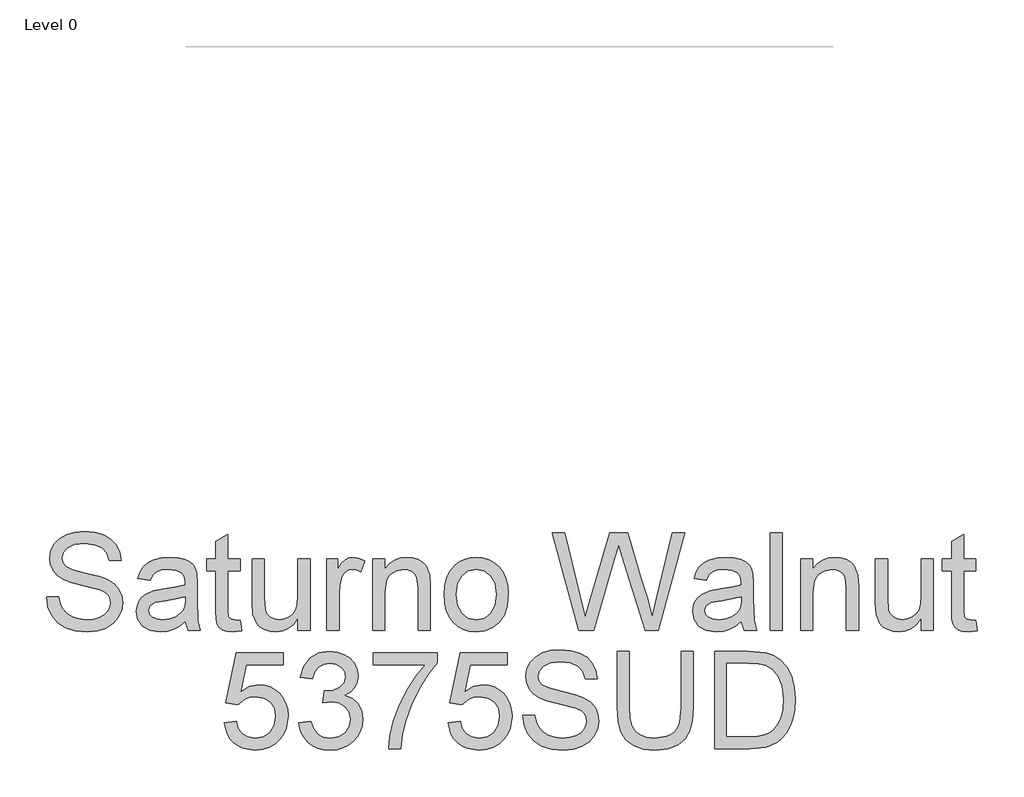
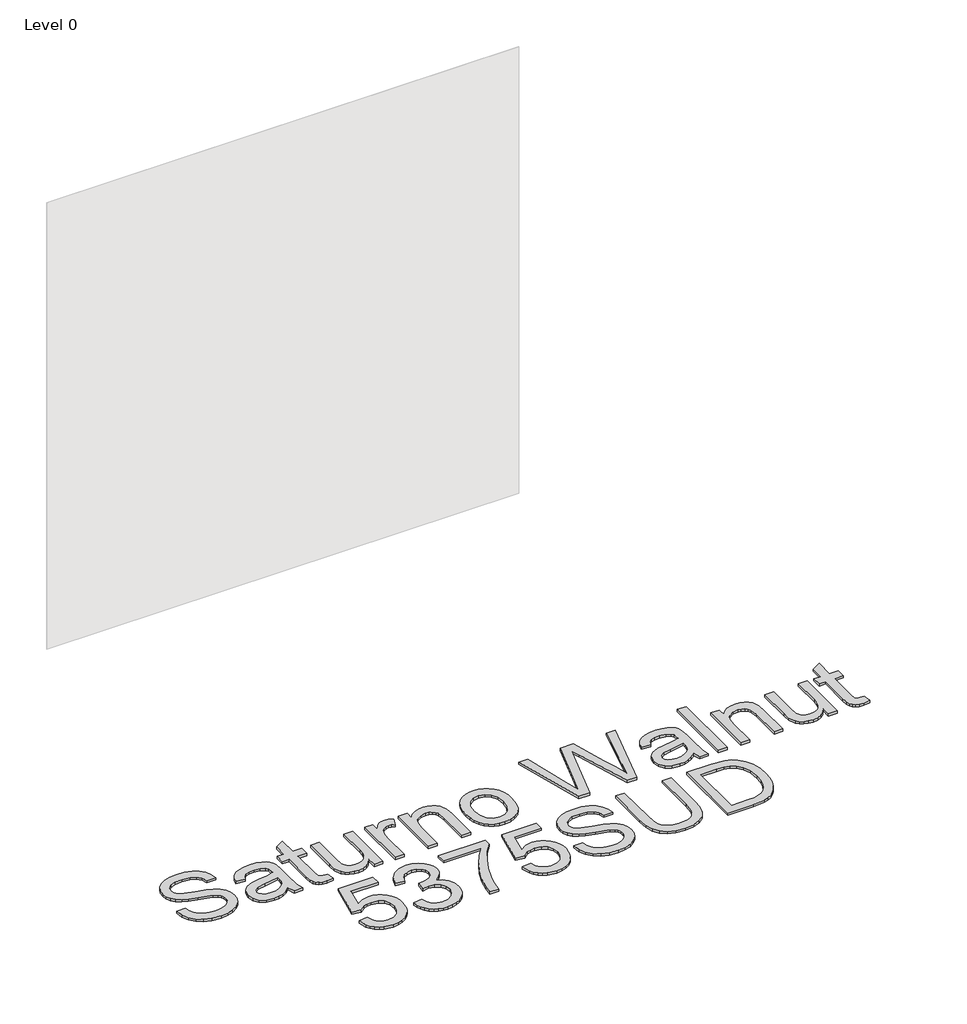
# One storey, part 10 of 43: 1 proxy.
"""IFC4 building model written with IfcOpenShell, lengths in millimetres."""

from ifc_helpers import new_model, si_unit, origin, origin_with_axes, place, context, project, spatial, polyline, outline, extrude, element, save

model = new_model("IFC4")

# Units and contexts
model_context = context("Model", 3, world=origin())
ifc_project = project(units=[si_unit("LENGTHUNIT", "METRE", prefix="MILLI")], contexts=[model_context])

# Site, building, storey
site = spatial("IfcSite", under=ifc_project)
building = spatial("IfcBuilding", under=site)
storey = spatial("IfcBuildingStorey", under=building, Name="Level 0", Elevation=0.0)

# Proxy
placement = place(None, origin())
element("IfcBuildingElementProxy", 1, Name="300mm Arial", ObjectType="300mm Arial", at=placement, inside=storey, context=model_context, shape_type="SweptSolid", body=[
    extrude(outline(polyline([(-5882.1604759, -16896.2649241), (-5844.4893596, -16896.2649241), (-5840.1667462, -16917.1698185), (-5832.3492538, -16933.9728286), (-5820.1539657, -16947.308551), (-5802.697965, -16957.8115819), (-5781.3608093, -16964.6265959), (-5757.522056, -16966.8982672), (-5736.5343881, -16965.1784189), (-5718.1586825, -16960.0188739), (-5703.2686587, -16951.8518936), (-5692.7380366, -16941.1097394), (-5686.4748457, -16928.7764955), (-5684.3871153, -16915.8362463), (-5685.9506138, -16903.2270909), (-5690.6411093, -16892.3285868), (-5700.1692529, -16883.0303694), (-5716.2456961, -16875.222074), (-5771.0969016, -16860.837888), (-5807.1033519, -16851.3189414), (-5830.1419618, -16842.2598472), (-5848.8947465, -16829.5863125), (-5862.1844836, -16814.2272392), (-5870.1031435, -16796.5137211), (-5872.7426969, -16776.7768521), (-5869.4777442, -16754.7131294), (-5859.682886, -16734.1393289), (-5843.6156399, -16716.7017223), (-5821.5335231, -16704.0465817), (-5795.0276254, -16696.3486509), (-5765.6890363, -16693.782674), (-5733.9040319, -16696.4682126), (-5706.092153, -16704.5248283), (-5683.2466811, -16717.7869742), (-5666.3608976, -16736.0891034), (-5655.6739256, -16758.2907818), (-5651.4248886, -16783.2515752), (-5689.0960049, -16783.2515752), (-5696.0121864, -16760.7739853), (-5710.4331606, -16744.5503893), (-5732.9659328, -16734.7279401), (-5764.2175083, -16731.4537903), (-5796.2048478, -16734.6911519), (-5818.1490088, -16744.4032365), (-5830.8409376, -16758.695452), (-5835.0715806, -16775.6732061), (-5832.0733423, -16790.1493626), (-5823.0786275, -16801.7928278), (-5801.8150482, -16812.2038882), (-5761.5687579, -16822.8356779), (-5720.0348807, -16832.9340387), (-5694.9085404, -16841.7448125), (-5673.4334289, -16855.4116286), (-5658.4514347, -16872.2790181), (-5649.6498579, -16892.1630399), (-5646.715999, -16914.8797531), (-5650.0913163, -16938.102304), (-5660.2172682, -16959.9452975), (-5676.6799875, -16978.7440675), (-5699.0656069, -16992.8339479), (-5725.9853719, -17001.6355246), (-5756.050528, -17004.5693835), (-5792.9582892, -17001.4055984), (-5823.3361449, -16991.9142429), (-5847.5335831, -16976.0585289), (-5865.9000918, -16953.8016682), (-5877.6907097, -16926.6887651), (-5882.1604759, -16896.2649241)])), origin_with_axes(), (0.0, 0.0, 1.0), 10.0),
    extrude(outline(polyline([(-5453.651528, -16971.6071568), (-5471.6501546, -16987.0398064), (-5490.1822101, -16997.1381672), (-5509.6707588, -17002.7115794), (-5530.5388649, -17004.5693835), (-5562.0203667, -17000.0996173), (-5585.2429176, -16986.6903186), (-5599.5627243, -16966.3280501), (-5604.3359932, -16940.9993748), (-5602.5333714, -16925.3827841), (-5597.1255061, -16911.2009331), (-5588.7837818, -16899.0608273), (-5578.1795833, -16889.5694718), (-5551.8024443, -16877.2086368), (-5519.2080995, -16871.5432541), (-5480.6908546, -16865.5835657), (-5453.8722572, -16858.5938078), (-5453.651528, -16850.2060983), (-5456.245096, -16833.3938912), (-5464.0258002, -16822.3942195), (-5481.4266186, -16814.2272392), (-5505.6700421, -16811.5049125), (-5528.1108438, -16813.3167313), (-5543.7826168, -16818.7521878), (-5554.4695887, -16828.8045633), (-5561.9559873, -16844.4671392), (-5599.6271036, -16839.7582497), (-5593.0880012, -16819.156858), (-5583.3299313, -16802.9700502), (-5569.4423859, -16790.590821), (-5550.5148573, -16781.4121652), (-5527.3658827, -16775.7283884), (-5500.8139997, -16773.8337961), (-5475.3473686, -16775.5076592), (-5455.1598441, -16780.5292485), (-5439.9387266, -16788.0800264), (-5429.3713163, -16797.3414556), (-5422.3631643, -16808.7917827), (-5417.8198216, -16822.9092543), (-5415.9804117, -16855.8714811), (-5415.9804117, -16902.7396473), (-5414.0674253, -16968.1858542), (-5406.5626326, -16999.860494), (-5444.2337489, -16999.860494), (-5453.651528, -16971.6071568)]), holes=[polyline([(-5453.651528, -16896.2649241), (-5514.4256336, -16907.8164188), (-5546.8360373, -16913.9232599), (-5561.5145289, -16923.8560738), (-5566.6648769, -16938.3506244), (-5563.8597767, -16949.5526311), (-5555.444476, -16958.7312869), (-5541.602916, -16964.8565221), (-5522.5190375, -16966.8982672), (-5502.2855277, -16964.64499), (-5484.4064628, -16957.8851583), (-5469.9119121, -16947.9247533), (-5459.8319455, -16936.069756), (-5455.3621792, -16923.8560738), (-5453.8722572, -16906.933502), (-5453.651528, -16896.2649241)])]), origin_with_axes(), (0.0, 0.0, 1.0), 10.0),
    extrude(outline(polyline([(-5284.1315046, -16968.4433716), (-5279.422615, -17000.96414), (-5307.6023759, -17004.5693835), (-5325.6837759, -17003.005885), (-5339.1666511, -16998.3153896), (-5348.6947947, -16991.0865084), (-5354.9120005, -16981.9078526), (-5358.333303, -16966.1441091), (-5359.4737372, -16939.1599648), (-5359.4737372, -16816.213802), (-5387.7270744, -16816.213802), (-5387.7270744, -16778.5426857), (-5359.4737372, -16778.5426857), (-5359.4737372, -16724.758338), (-5321.8026209, -16702.6118419), (-5321.8026209, -16778.5426857), (-5284.1315046, -16778.5426857), (-5284.1315046, -16816.213802), (-5321.8026209, -16816.213802), (-5321.8026209, -16938.0563188), (-5319.8160581, -16957.4804881), (-5313.3781232, -16964.3598814), (-5300.5390416, -16966.8982672), (-5284.1315046, -16968.4433716)])), origin_with_axes(), (0.0, 0.0, 1.0), 10.0),
    extrude(outline(polyline([(-5105.1937021, -16999.860494), (-5105.1937021, -16961.8214957), (-5118.82373, -16980.5236966), (-5134.6978381, -16993.8824116), (-5152.8160264, -17001.8976405), (-5173.1782948, -17004.5693835), (-5191.5264093, -17002.6931853), (-5208.605331, -16997.0645908), (-5222.9343347, -16988.6033049), (-5233.0326954, -16978.2290327), (-5244.2530963, -16950.4907302), (-5246.4603883, -16915.4683643), (-5246.4603883, -16778.5426857), (-5208.789272, -16778.5426857), (-5208.789272, -16897.7364521), (-5206.5084036, -16936.1433324), (-5201.0177648, -16948.9548229), (-5191.6091828, -16958.6944987), (-5178.9080569, -16964.8473251), (-5163.5397866, -16966.8982672), (-5147.2885994, -16964.8013398), (-5132.085876, -16958.5105577), (-5119.550297, -16948.605335), (-5111.3005432, -16935.6650858), (-5106.7204124, -16917.9423707), (-5105.1937021, -16893.6897502), (-5105.1937021, -16778.5426857), (-5067.5225858, -16778.5426857), (-5067.5225858, -16999.860494), (-5105.1937021, -16999.860494)])), origin_with_axes(), (0.0, 0.0, 1.0), 10.0),
    extrude(outline(polyline([(-5015.7248009, -16999.860494), (-5015.7248009, -16778.5426857), (-4982.7625741, -16778.5426857), (-4982.7625741, -16811.2841833), (-4970.5856801, -16792.3014723), (-4959.3652792, -16781.1178596), (-4948.1080902, -16775.654812), (-4935.8208315, -16773.8337961), (-4917.0588498, -16776.7400639), (-4898.0025624, -16785.4588672), (-4910.5841267, -16819.2304343), (-4923.8278785, -16813.4362929), (-4937.0716303, -16811.5049125), (-4948.3196223, -16813.3627165), (-4958.3719979, -16818.9361288), (-4966.4929929, -16827.8020848), (-4971.9468435, -16839.5375205), (-4976.5269743, -16860.5803706), (-4978.0536846, -16883.5362071), (-4978.0536846, -16999.860494), (-5015.7248009, -16999.860494)])), origin_with_axes(), (0.0, 0.0, 1.0), 10.0),
    extrude(outline(polyline([(-4874.4581148, -16999.860494), (-4874.4581148, -16778.5426857), (-4836.7869984, -16778.5426857), (-4836.7869984, -16809.4447733), (-4823.6995965, -16793.8649708), (-4807.9818382, -16782.7365404), (-4789.6337237, -16776.0594822), (-4768.6552529, -16773.8337961), (-4750.0864092, -16775.6272209), (-4733.081064, -16781.0074951), (-4718.8992131, -16789.303234), (-4708.8008523, -16799.8430532), (-4697.5068751, -16827.5445674), (-4695.5203123, -16863.964885), (-4695.5203123, -16999.860494), (-4733.1914286, -16999.860494), (-4733.1914286, -16869.0416565), (-4737.5324361, -16835.7115477), (-4743.5381097, -16825.7879309), (-4752.8731153, -16818.0900002), (-4764.8384772, -16813.1511844), (-4778.7352196, -16811.5049125), (-4800.7989423, -16815.2021265), (-4819.6069093, -16826.2937687), (-4827.1231983, -16835.3482643), (-4832.4919762, -16847.7228949), (-4836.7869984, -16882.4325611), (-4836.7869984, -16999.860494), (-4874.4581148, -16999.860494)])), origin_with_axes(), (0.0, 0.0, 1.0), 10.0),
    extrude(outline(polyline([(-4653.1403065, -16889.2015898), (-4651.1031599, -16860.5389839), (-4644.9917203, -16835.8403064), (-4634.8059875, -16815.1055575), (-4620.5459617, -16798.334737), (-4606.1893668, -16787.6155754), (-4590.3428499, -16779.9590314), (-4573.0064109, -16775.3651049), (-4554.1800498, -16773.8337961), (-4533.3970163, -16775.698498), (-4514.6051441, -16781.2926036), (-4497.8044333, -16790.6161129), (-4482.9948837, -16803.669026), (-4470.9076609, -16820.0098843), (-4462.2739303, -16839.1972296), (-4457.093692, -16861.2310619), (-4455.3669458, -16886.1113811), (-4458.4203664, -16924.1687735), (-4467.5806281, -16953.1394806), (-4482.5810164, -16974.8353213), (-4503.154817, -16991.0681143), (-4527.5913785, -17001.1940662), (-4554.1800498, -17004.5693835), (-4575.2665859, -17002.7115794), (-4594.233202, -16997.1381672), (-4611.0798981, -16987.8491468), (-4625.8066742, -16974.8445183), (-4637.7651383, -16958.3450108), (-4646.3068984, -16938.5713536), (-4651.4319544, -16915.5235466), (-4653.1403065, -16889.2015898)]), holes=[polyline([(-4615.4691901, -16889.1280134), (-4611.1097885, -16923.2214773), (-4598.0315836, -16947.5108861), (-4578.3498968, -16962.0514219), (-4554.1800498, -16966.8982672), (-4530.1205673, -16962.0238308), (-4510.4756687, -16947.4005215), (-4497.3974638, -16922.789216), (-4493.0380622, -16887.950791), (-4497.4250549, -16854.8506085), (-4510.5860333, -16830.8922936), (-4530.258523, -16816.3517577), (-4554.1800498, -16811.5049125), (-4578.3498968, -16816.3333636), (-4598.0315836, -16830.8187172), (-4611.1097885, -16855.0529436), (-4615.4691901, -16889.1280134)])]), origin_with_axes(), (0.0, 0.0, 1.0), 10.0),
    extrude(outline(polyline([(-4236.6243115, -16999.860494), (-4318.8091492, -16698.4915635), (-4279.9608105, -16698.4915635), (-4232.283304, -16896.5592297), (-4217.5680242, -16957.7012173), (-4201.8226748, -16903.622564), (-4142.0786388, -16698.4915635), (-4086.0869991, -16698.4915635), (-4042.6769237, -16847.189466), (-4024.0804888, -16902.3717653), (-4010.3768845, -16957.7012173), (-3996.1030631, -16898.3250633), (-3947.9840981, -16698.4915635), (-3909.1357594, -16698.4915635), (-3991.3941735, -16999.860494), (-4031.6404638, -16999.860494), (-4103.8924877, -16767.359073), (-4113.9724543, -16734.9118811), (-4125.3032198, -16773.9809489), (-4191.1540969, -16999.860494), (-4236.6243115, -16999.860494)])), origin_with_axes(), (0.0, 0.0, 1.0), 10.0),
    extrude(outline(polyline([(-3734.9068465, -16971.6071568), (-3752.9054731, -16987.0398064), (-3771.4375286, -16997.1381672), (-3790.9260773, -17002.7115794), (-3811.7941835, -17004.5693835), (-3843.2756852, -17000.0996173), (-3866.4982362, -16986.6903186), (-3880.8180428, -16966.3280501), (-3885.5913117, -16940.9993748), (-3883.7886899, -16925.3827841), (-3878.3808246, -16911.2009331), (-3870.0391004, -16899.0608273), (-3859.4349019, -16889.5694718), (-3833.0577628, -16877.2086368), (-3800.463418, -16871.5432541), (-3761.9461731, -16865.5835657), (-3735.1275757, -16858.5938078), (-3734.9068465, -16850.2060983), (-3737.5004146, -16833.3938912), (-3745.2811188, -16822.3942195), (-3762.6819371, -16814.2272392), (-3786.9253606, -16811.5049125), (-3809.3661623, -16813.3167313), (-3825.0379353, -16818.7521878), (-3835.7249073, -16828.8045633), (-3843.2113059, -16844.4671392), (-3880.8824222, -16839.7582497), (-3874.3433197, -16819.156858), (-3864.5852498, -16802.9700502), (-3850.6977045, -16790.590821), (-3831.7701758, -16781.4121652), (-3808.6212013, -16775.7283884), (-3782.0693183, -16773.8337961), (-3756.6026872, -16775.5076592), (-3736.4151627, -16780.5292485), (-3721.1940451, -16788.0800264), (-3710.6266348, -16797.3414556), (-3703.6184828, -16808.7917827), (-3699.0751402, -16822.9092543), (-3697.2357302, -16855.8714811), (-3697.2357302, -16902.7396473), (-3695.3227438, -16968.1858542), (-3687.8179511, -16999.860494), (-3725.4890674, -16999.860494), (-3734.9068465, -16971.6071568)]), holes=[polyline([(-3734.9068465, -16896.2649241), (-3795.6809521, -16907.8164188), (-3828.0913559, -16913.9232599), (-3842.7698475, -16923.8560738), (-3847.9201954, -16938.3506244), (-3845.1150952, -16949.5526311), (-3836.6997946, -16958.7312869), (-3822.8582345, -16964.8565221), (-3803.774356, -16966.8982672), (-3783.5408463, -16964.64499), (-3765.6617813, -16957.8851583), (-3751.1672307, -16947.9247533), (-3741.087264, -16936.069756), (-3736.6174978, -16923.8560738), (-3735.1275757, -16906.933502), (-3734.9068465, -16896.2649241)])]), origin_with_axes(), (0.0, 0.0, 1.0), 10.0),
    extrude(outline(polyline([(-3645.4379453, -16999.860494), (-3645.4379453, -16698.4915635), (-3607.766829, -16698.4915635), (-3607.766829, -16999.860494), (-3645.4379453, -16999.860494)])), origin_with_axes(), (0.0, 0.0, 1.0), 10.0),
    extrude(outline(polyline([(-3551.2601545, -16999.860494), (-3551.2601545, -16778.5426857), (-3513.5890382, -16778.5426857), (-3513.5890382, -16809.4447733), (-3500.5016362, -16793.8649708), (-3484.783878, -16782.7365404), (-3466.4357635, -16776.0594822), (-3445.4572927, -16773.8337961), (-3426.888449, -16775.6272209), (-3409.8831038, -16781.0074951), (-3395.7012528, -16789.303234), (-3385.6028921, -16799.8430532), (-3374.3089148, -16827.5445674), (-3372.322352, -16863.964885), (-3372.322352, -16999.860494), (-3409.9934684, -16999.860494), (-3409.9934684, -16869.0416565), (-3414.3344759, -16835.7115477), (-3420.3401495, -16825.7879309), (-3429.6751551, -16818.0900002), (-3441.640517, -16813.1511844), (-3455.5372594, -16811.5049125), (-3477.600982, -16815.2021265), (-3496.408949, -16826.2937687), (-3503.925238, -16835.3482643), (-3509.2940159, -16847.7228949), (-3513.5890382, -16882.4325611), (-3513.5890382, -16999.860494), (-3551.2601545, -16999.860494)])), origin_with_axes(), (0.0, 0.0, 1.0), 10.0),
    extrude(outline(polyline([(-3179.257881, -16999.860494), (-3179.257881, -16961.8214957), (-3192.8879089, -16980.5236966), (-3208.762017, -16993.8824116), (-3226.8802053, -17001.8976405), (-3247.2424737, -17004.5693835), (-3265.5905882, -17002.6931853), (-3282.6695098, -16997.0645908), (-3296.9985135, -16988.6033049), (-3307.0968743, -16978.2290327), (-3318.3172752, -16950.4907302), (-3320.5245671, -16915.4683643), (-3320.5245671, -16778.5426857), (-3282.8534508, -16778.5426857), (-3282.8534508, -16897.7364521), (-3280.5725824, -16936.1433324), (-3275.0819437, -16948.9548229), (-3265.6733616, -16958.6944987), (-3252.9722358, -16964.8473251), (-3237.6039654, -16966.8982672), (-3221.3527783, -16964.8013398), (-3206.1500548, -16958.5105577), (-3193.6144758, -16948.605335), (-3185.3647221, -16935.6650858), (-3180.7845913, -16917.9423707), (-3179.257881, -16893.6897502), (-3179.257881, -16778.5426857), (-3141.5867647, -16778.5426857), (-3141.5867647, -16999.860494), (-3179.257881, -16999.860494)])), origin_with_axes(), (0.0, 0.0, 1.0), 10.0),
    extrude(outline(polyline([(-3009.7378576, -16968.4433716), (-3005.0289681, -17000.96414), (-3033.2087289, -17004.5693835), (-3051.290129, -17003.005885), (-3064.7730041, -16998.3153896), (-3074.3011478, -16991.0865084), (-3080.5183535, -16981.9078526), (-3083.939656, -16966.1441091), (-3085.0800902, -16939.1599648), (-3085.0800902, -16816.213802), (-3113.3334274, -16816.213802), (-3113.3334274, -16778.5426857), (-3085.0800902, -16778.5426857), (-3085.0800902, -16724.758338), (-3047.4089739, -16702.6118419), (-3047.4089739, -16778.5426857), (-3009.7378576, -16778.5426857), (-3009.7378576, -16816.213802), (-3047.4089739, -16816.213802), (-3047.4089739, -16938.0563188), (-3045.4224111, -16957.4804881), (-3038.9844762, -16964.3598814), (-3026.1453946, -16966.8982672), (-3009.7378576, -16968.4433716)])), origin_with_axes(), (0.0, 0.0, 1.0), 10.0),
    extrude(outline(polyline([(-5333.5748447, -17285.7338254), (-5295.9037284, -17281.0249358), (-5288.9875469, -17303.6404815), (-5276.9210175, -17319.8364863), (-5259.7593224, -17329.5761621), (-5237.557644, -17332.8227207), (-5210.5551055, -17328.3069693), (-5190.3215958, -17314.7597148), (-5177.6848493, -17293.7444558), (-5173.4726004, -17266.8246908), (-5177.4181348, -17241.4776213), (-5189.254738, -17222.0902402), (-5209.0743805, -17209.7845875), (-5236.9690328, -17205.6827032), (-5255.2435709, -17207.3197781), (-5270.0416242, -17212.2310027), (-5291.1948389, -17229.2271509), (-5328.8659552, -17224.5182614), (-5295.9037284, -17069.1249066), (-5149.9281527, -17069.1249066), (-5149.9281527, -17106.7960229), (-5265.4430992, -17106.7960229), (-5281.5563306, -17189.790201), (-5254.6457627, -17173.4562404), (-5226.4476077, -17168.0115869), (-5208.1017925, -17169.6992456), (-5191.2504978, -17174.7622215), (-5175.8937238, -17183.2005148), (-5162.0314704, -17195.0141254), (-5150.5558514, -17209.4810848), (-5142.3589807, -17225.8794248), (-5137.4408583, -17244.2091452), (-5135.8014841, -17264.470246), (-5141.7059901, -17302.1413624), (-5149.0866227, -17318.9351754), (-5159.4195082, -17334.3678251), (-5175.0728871, -17350.1729553), (-5193.3382282, -17361.4623341), (-5214.2155314, -17368.2359613), (-5237.7047968, -17370.4938371), (-5274.7045285, -17364.6904986), (-5290.3831992, -17357.4363255), (-5304.1810733, -17347.2804832), (-5315.6612908, -17334.7288093), (-5324.3869919, -17320.2871418), (-5333.5748447, -17285.7338254)])), origin_with_axes(), (0.0, 0.0, 1.0), 10.0),
    extrude(outline(polyline([(-5102.8392574, -17285.7338254), (-5065.1681411, -17281.0249358), (-5056.7344463, -17304.6981422), (-5044.3828083, -17320.6826149), (-5027.5062218, -17329.7876943), (-5005.4976814, -17332.8227207), (-4979.6723654, -17328.6472601), (-4959.7331612, -17316.1208782), (-4946.9860501, -17297.4324728), (-4942.7370131, -17274.7709419), (-4946.9492619, -17253.2590422), (-4959.5860084, -17235.8122386), (-4978.7158722, -17224.2515469), (-5002.4074727, -17220.397983), (-5028.8213999, -17224.5182614), (-5024.6275452, -17186.8471451), (-5018.5942805, -17187.2886035), (-4996.0247201, -17184.5846708), (-4975.8463926, -17176.4728728), (-4961.6093594, -17162.7508744), (-4956.8636817, -17143.2163404), (-4960.3033783, -17126.9467592), (-4970.6224683, -17113.7489926), (-4986.3678177, -17105.0025982), (-5006.0862926, -17102.0871334), (-5025.8415558, -17105.0301893), (-5041.9915754, -17113.8593572), (-5053.7821933, -17128.574637), (-5060.4592515, -17149.1760288), (-5098.1303678, -17144.4671392), (-5087.0387257, -17110.6403898), (-5067.3018566, -17085.3852908), (-5040.2993182, -17069.6583355), (-5007.4106678, -17064.4160171), (-4983.7282644, -17067.0003881), (-4961.9772414, -17074.7535011), (-4943.6383239, -17086.9855775), (-4930.192237, -17103.0068384), (-4921.9424833, -17121.4653175), (-4919.1925654, -17141.0090485), (-4921.8045275, -17159.2192072), (-4929.640414, -17175.7371088), (-4942.5898603, -17189.8085951), (-4960.5425016, -17200.6795081), (-4936.9612657, -17210.2076518), (-4919.486871, -17226.4312477), (-4908.6711403, -17248.4673793), (-4905.0658967, -17275.4331295), (-4906.8685185, -17294.5445992), (-4912.2763839, -17312.1477526), (-4921.2894927, -17328.2425899), (-4933.9078452, -17342.829111), (-4949.280714, -17354.9324287), (-4966.5573722, -17363.5776555), (-4985.7378198, -17368.7647917), (-5006.8220566, -17370.4938371), (-5025.878344, -17369.0177105), (-5043.2423741, -17364.589331), (-5058.9141471, -17357.2086985), (-5072.8936629, -17346.875813), (-5084.615303, -17334.1976797), (-5093.5134488, -17319.781304), (-5099.5881002, -17303.6266859), (-5102.8392574, -17285.7338254)])), origin_with_axes(), (0.0, 0.0, 1.0), 10.0),
    extrude(outline(polyline([(-4872.10367, -17106.7960229), (-4872.10367, -17069.1249066), (-4674.3303094, -17069.1249066), (-4674.3303094, -17099.5855358), (-4702.5192673, -17135.2608923), (-4730.4323136, -17180.6299393), (-4755.0528162, -17231.5540045), (-4773.3641425, -17283.8944154), (-4782.3404632, -17323.0554538), (-4787.3436583, -17365.7849475), (-4825.0147746, -17365.7849475), (-4820.9404815, -17326.9550029), (-4810.0419774, -17280.8042066), (-4792.6135679, -17231.8850983), (-4768.9495585, -17184.7502177), (-4741.3216207, -17142.1402856), (-4712.0014257, -17106.7960229), (-4872.10367, -17106.7960229)])), origin_with_axes(), (0.0, 0.0, 1.0), 10.0),
    extrude(outline(polyline([(-4641.3680826, -17285.7338254), (-4603.6969663, -17281.0249358), (-4596.7807848, -17303.6404815), (-4584.7142553, -17319.8364863), (-4567.5525603, -17329.5761621), (-4545.3508819, -17332.8227207), (-4518.3483434, -17328.3069693), (-4498.1148337, -17314.7597148), (-4485.4780872, -17293.7444558), (-4481.2658383, -17266.8246908), (-4485.2113727, -17241.4776213), (-4497.0479759, -17222.0902402), (-4516.8676184, -17209.7845875), (-4544.7622707, -17205.6827032), (-4563.0368088, -17207.3197781), (-4577.834862, -17212.2310027), (-4598.9880768, -17229.2271509), (-4636.6591931, -17224.5182614), (-4603.6969663, -17069.1249066), (-4457.7213906, -17069.1249066), (-4457.7213906, -17106.7960229), (-4573.2363371, -17106.7960229), (-4589.3495685, -17189.790201), (-4562.4390005, -17173.4562404), (-4534.2408456, -17168.0115869), (-4515.8950304, -17169.6992456), (-4499.0437357, -17174.7622215), (-4483.6869617, -17183.2005148), (-4469.8247083, -17195.0141254), (-4458.3490893, -17209.4810848), (-4450.1522186, -17225.8794248), (-4445.2340961, -17244.2091452), (-4443.594722, -17264.470246), (-4449.499228, -17302.1413624), (-4456.8798606, -17318.9351754), (-4467.2127461, -17334.3678251), (-4482.866125, -17350.1729553), (-4501.131466, -17361.4623341), (-4522.0087693, -17368.2359613), (-4545.4980347, -17370.4938371), (-4582.4977663, -17364.6904986), (-4598.1764371, -17357.4363255), (-4611.9743112, -17347.2804832), (-4623.4545287, -17334.7288093), (-4632.1802298, -17320.2871418), (-4641.3680826, -17285.7338254)])), origin_with_axes(), (0.0, 0.0, 1.0), 10.0),
    extrude(outline(polyline([(-4410.6324952, -17262.1893777), (-4372.9613789, -17262.1893777), (-4368.6387655, -17283.0942721), (-4360.8212731, -17299.8972822), (-4348.6259849, -17313.2330045), (-4331.1699843, -17323.7360355), (-4309.8328286, -17330.5510494), (-4285.9940753, -17332.8227207), (-4265.0064074, -17331.1028724), (-4246.6307018, -17325.9433274), (-4231.740678, -17317.7763471), (-4221.2100559, -17307.0341929), (-4214.9468649, -17294.700949), (-4212.8591346, -17281.7606998), (-4214.4226331, -17269.1515444), (-4219.1131285, -17258.2530403), (-4228.6412722, -17248.9548229), (-4244.7177154, -17241.1465276), (-4299.5689209, -17226.7623415), (-4335.5753712, -17217.2433949), (-4358.6139811, -17208.1843008), (-4377.3667658, -17195.510766), (-4390.6565029, -17180.1516928), (-4398.5751628, -17162.4381747), (-4401.2147162, -17142.7013056), (-4397.9497634, -17120.637583), (-4388.1549053, -17100.0637824), (-4372.0876592, -17082.6261758), (-4350.0055424, -17069.9710352), (-4323.4996447, -17062.2731044), (-4294.1610556, -17059.7071275), (-4262.3760512, -17062.3926661), (-4234.5641723, -17070.4492818), (-4211.7187004, -17083.7114277), (-4194.8329169, -17102.013557), (-4184.1459449, -17124.2152354), (-4179.8969079, -17149.1760288), (-4217.5680242, -17149.1760288), (-4224.4842057, -17126.6984389), (-4238.9051799, -17110.4748429), (-4261.4379521, -17100.6523936), (-4292.6895276, -17097.3782438), (-4324.6768671, -17100.6156054), (-4346.6210281, -17110.3276901), (-4359.3129569, -17124.6199056), (-4363.5435998, -17141.5976597), (-4360.5453616, -17156.0738162), (-4351.5506468, -17167.7172813), (-4330.2870675, -17178.1283418), (-4290.0407772, -17188.7601314), (-4248.5069, -17198.8584922), (-4223.3805597, -17207.669266), (-4201.9054482, -17221.3360821), (-4186.923454, -17238.2034716), (-4178.1218772, -17258.0874934), (-4175.1880183, -17280.8042066), (-4178.5633356, -17304.0267576), (-4188.6892875, -17325.869751), (-4205.1520068, -17344.668521), (-4227.5376262, -17358.7584014), (-4254.4573912, -17367.5599781), (-4284.5225473, -17370.4938371), (-4321.4303085, -17367.3300519), (-4351.8081642, -17357.8386964), (-4376.0056024, -17341.9829824), (-4394.372111, -17319.7261217), (-4406.162729, -17292.6132187), (-4410.6324952, -17262.1893777)])), origin_with_axes(), (0.0, 0.0, 1.0), 10.0),
    extrude(outline(polyline([(-3920.9079833, -17064.4160171), (-3883.2368669, -17064.4160171), (-3883.2368669, -17238.277048), (-3885.7936468, -17278.9923878), (-3893.4639864, -17310.3451308), (-3907.7929901, -17334.533372), (-3930.3257623, -17353.7552063), (-3961.1174853, -17366.3091794), (-4000.2233414, -17370.4938371), (-4038.4738719, -17366.8518053), (-4069.0540627, -17355.92571), (-4091.973111, -17338.0926303), (-4107.2402138, -17313.7296452), (-4115.8210613, -17281.052527), (-4118.6813439, -17238.277048), (-4118.6813439, -17064.4160171), (-4081.0102276, -17064.4160171), (-4081.0102276, -17236.9526728), (-4079.1524235, -17270.8070134), (-4073.5790113, -17294.3790523), (-4063.4806505, -17310.7038158), (-4048.0480008, -17322.8163305), (-4027.9248556, -17330.3211232), (-4003.7550086, -17332.8227207), (-3965.4400988, -17327.8747079), (-3951.0972995, -17321.6896919), (-3939.9642706, -17313.0306694), (-3931.6271449, -17300.8537754), (-3925.6720551, -17284.1151446), (-3920.9079833, -17236.9526728), (-3920.9079833, -17064.4160171)])), origin_with_axes(), (0.0, 0.0, 1.0), 10.0),
    extrude(outline(polyline([(-3817.3124134, -17365.7849475), (-3817.3124134, -17064.4160171), (-3713.3489616, -17064.4160171), (-3659.5646139, -17068.7570246), (-3635.5419196, -17077.12634), (-3615.2716217, -17090.3149095), (-3594.4311066, -17113.270746), (-3579.5870681, -17141.8183889), (-3570.7027179, -17175.406015), (-3567.7412679, -17213.4818015), (-3569.7462248, -17245.8278259), (-3575.7610954, -17274.2926953), (-3584.9213571, -17298.5269217), (-3596.3624871, -17318.1810173), (-3609.5326625, -17333.6964405), (-3623.8800603, -17345.5146496), (-3640.3519767, -17354.2794381), (-3659.8957077, -17360.6345996), (-3708.3457664, -17365.7849475), (-3817.3124134, -17365.7849475)]), holes=[polyline([(-3779.6412971, -17328.1138312), (-3712.9810796, -17328.1138312), (-3685.408324, -17326.7526678), (-3664.4942326, -17322.6691777), (-3648.712095, -17316.1024841), (-3636.535201, -17307.2917103), (-3623.447799, -17290.9853408), (-3613.6161527, -17269.8781114), (-3607.4633263, -17243.8780514), (-3605.4123842, -17212.8931903), (-3609.431495, -17171.8375597), (-3621.4888274, -17141.5240833), (-3639.303513, -17120.7019623), (-3660.5946835, -17108.1203981), (-3682.262933, -17103.5954496), (-3714.0111492, -17102.0871334), (-3779.6412971, -17102.0871334), (-3779.6412971, -17328.1138312)])]), origin_with_axes(), (0.0, 0.0, 1.0), 10.0),
])

save(model, "model.ifc")
